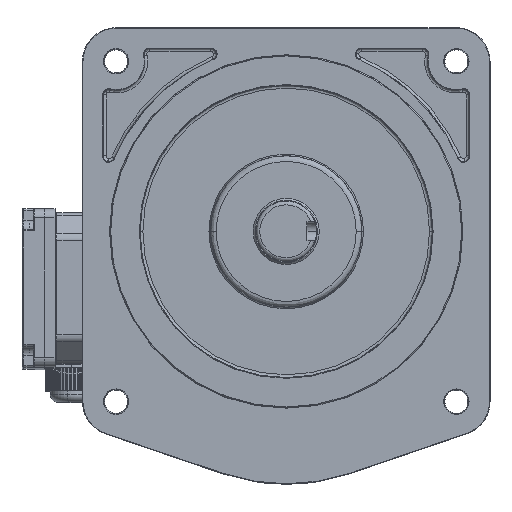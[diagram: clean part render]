
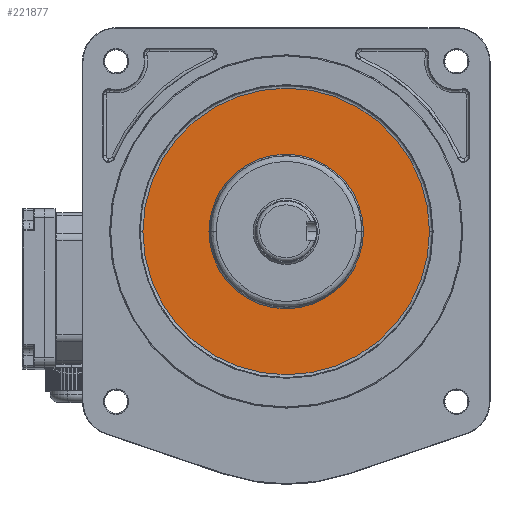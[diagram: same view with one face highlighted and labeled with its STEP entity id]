
A CAD part, top view. The second image highlights one B-rep face of the part: STEP entity #221877.
In plain terms, the highlighted planar face has unit normal (0, 0, 1).
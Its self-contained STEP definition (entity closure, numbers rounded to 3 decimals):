
#414 = DIRECTION ( 'NONE',  ( -1., 0., 0. ) ) ;
#2336 = CARTESIAN_POINT ( 'NONE',  ( -75.929, 30., 114. ) ) ;
#4495 = VERTEX_POINT ( 'NONE', #2336 ) ;
#4848 = FACE_BOUND ( 'NONE', #237338, .T. ) ;
#8666 = CARTESIAN_POINT ( 'NONE',  ( 0., 30., 114. ) ) ;
#18603 = EDGE_CURVE ( 'NONE', #135037, #249897, #100793, .T. ) ;
#41949 = AXIS2_PLACEMENT_3D ( 'NONE', #102271, #183950, #414 ) ;
#49910 = DIRECTION ( 'NONE',  ( -1., 0., 0. ) ) ;
#50105 = EDGE_CURVE ( 'NONE', #4495, #91826, #229384, .T. ) ;
#53664 = CARTESIAN_POINT ( 'NONE',  ( -25.464, 30., 114. ) ) ;
#63373 = EDGE_CURVE ( 'NONE', #249897, #135037, #157480, .T. ) ;
#66533 = DIRECTION ( 'NONE',  ( 0., 0., 1. ) ) ;
#70745 = CIRCLE ( 'NONE', #220412, 75.929 ) ;
#72097 = EDGE_CURVE ( 'NONE', #91826, #4495, #70745, .T. ) ;
#81120 = CARTESIAN_POINT ( 'NONE',  ( 0., 30., 114. ) ) ;
#86616 = FACE_OUTER_BOUND ( 'NONE', #178911, .T. ) ;
#90424 = DIRECTION ( 'NONE',  ( 0., 0., 1. ) ) ;
#91826 = VERTEX_POINT ( 'NONE', #198220 ) ;
#100793 = CIRCLE ( 'NONE', #250500, 25.464 ) ;
#102271 = CARTESIAN_POINT ( 'NONE',  ( 0., 30., 114. ) ) ;
#110229 = AXIS2_PLACEMENT_3D ( 'NONE', #249992, #66533, #148231 ) ;
#113867 = AXIS2_PLACEMENT_3D ( 'NONE', #81120, #162800, #244478 ) ;
#135037 = VERTEX_POINT ( 'NONE', #53664 ) ;
#139034 = ORIENTED_EDGE ( 'NONE', *, *, #50105, .T. ) ;
#148038 = ORIENTED_EDGE ( 'NONE', *, *, #63373, .F. ) ;
#148231 = DIRECTION ( 'NONE',  ( 1., 0., 0. ) ) ;
#151739 = CARTESIAN_POINT ( 'NONE',  ( 0., 30., 114. ) ) ;
#157480 = CIRCLE ( 'NONE', #41949, 25.464 ) ;
#162800 = DIRECTION ( 'NONE',  ( 0., 0., 1. ) ) ;
#168289 = PLANE ( 'NONE',  #110229 ) ;
#172107 = DIRECTION ( 'NONE',  ( 1., 0., 0. ) ) ;
#178911 = EDGE_LOOP ( 'NONE', ( #255335, #139034 ) ) ;
#183950 = DIRECTION ( 'NONE',  ( 0., 0., 1. ) ) ;
#184819 = CARTESIAN_POINT ( 'NONE',  ( 25.464, 30., 114. ) ) ;
#198220 = CARTESIAN_POINT ( 'NONE',  ( 75.929, 30., 114. ) ) ;
#204551 = ORIENTED_EDGE ( 'NONE', *, *, #18603, .F. ) ;
#220412 = AXIS2_PLACEMENT_3D ( 'NONE', #8666, #90424, #172107 ) ;
#221877 = ADVANCED_FACE ( 'NONE', ( #4848, #86616 ), #168289, .T. ) ;
#229384 = CIRCLE ( 'NONE', #113867, 75.929 ) ;
#233424 = DIRECTION ( 'NONE',  ( 0., 0., 1. ) ) ;
#237338 = EDGE_LOOP ( 'NONE', ( #204551, #148038 ) ) ;
#244478 = DIRECTION ( 'NONE',  ( 1., 0., 0. ) ) ;
#249897 = VERTEX_POINT ( 'NONE', #184819 ) ;
#249992 = CARTESIAN_POINT ( 'NONE',  ( 90., 120., 114. ) ) ;
#250500 = AXIS2_PLACEMENT_3D ( 'NONE', #151739, #233424, #49910 ) ;
#255335 = ORIENTED_EDGE ( 'NONE', *, *, #72097, .T. ) ;
